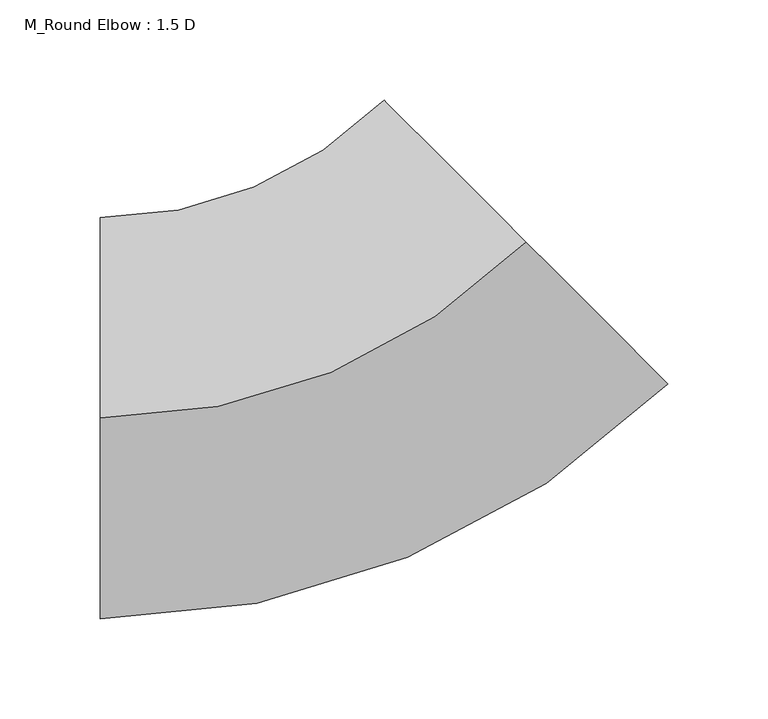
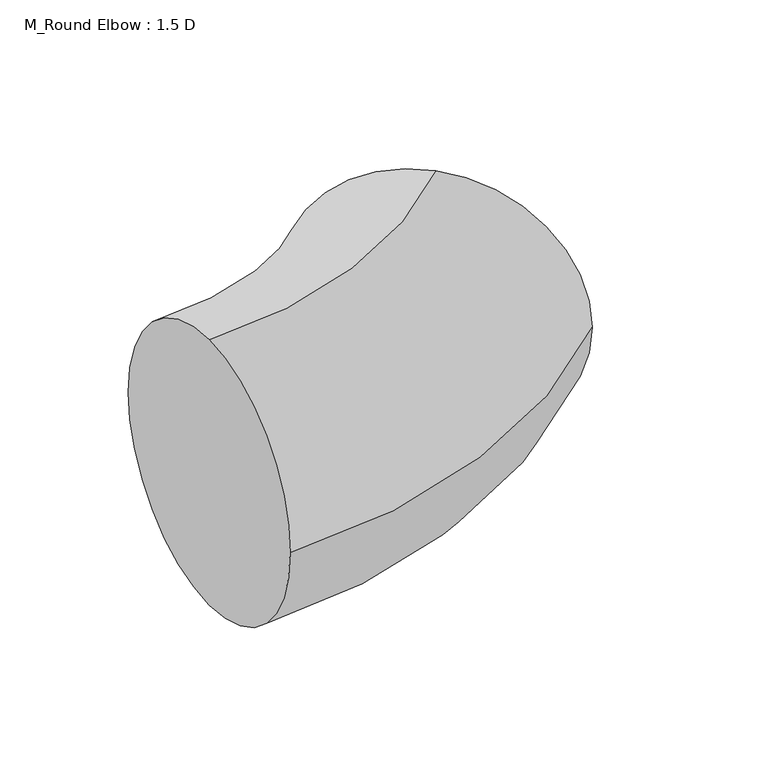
"""IFC4 building model written with IfcOpenShell, lengths in millimetres: duct fitting geometry, M_Round Elbow : 1.5 D."""

from ifc_helpers import new_model, si_unit, point, frame, origin, place, context, project, spatial, circle_curve, ellipse_curve, trimmed, source, transform, mapped, element, save
from ifc_brep_helpers import plane_surface, revolved_surface, advanced_brep


def m_round_elbow_1_5_d_8bea4ac0(model_context):
    return source(origin(), model_context, "Body", "AdvancedBrep", [
        advanced_brep(
        [(-124.2639339, 0.0, 100.0), (-124.2639339, 100.0, 0.0), (-124.2639339, 0.0, -100.0), (-124.2639339, -100.0, 0.0), (87.8679377, 87.867803, 100.0), (158.5785616, 17.1570706, 0.0), (87.8679377, 87.867803, -100.0), (17.1573138, 158.5785353, 0.0)],
        [
            (0, 1, circle_curve(frame((-124.2639339, 0.0, 0.0), z_axis=(-1.0, 0.0, 0.0), x_axis=(0.0, 1.0, 0.0)), 100.0)),
            (1, 2, circle_curve(frame((-124.2639339, 0.0, 0.0), z_axis=(-1.0, 0.0, 0.0), x_axis=(0.0, 1.0, 0.0)), 100.0)),
            (2, 3, circle_curve(frame((-124.2639339, 0.0, 0.0), z_axis=(-1.0, 0.0, 0.0), x_axis=(0.0, 1.0, 0.0)), 100.0)),
            (3, 0, circle_curve(frame((-124.2639339, 0.0, 0.0), z_axis=(-1.0, 0.0, 0.0), x_axis=(0.0, 1.0, 0.0)), 100.0)),
            (4, 5, circle_curve(frame((87.8679377, 87.867803, 0.0), z_axis=(0.7071073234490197, 0.7071062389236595, 0.0), x_axis=(-0.7071062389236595, 0.7071073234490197, 0.0)), 100.0)),
            (5, 6, circle_curve(frame((87.8679377, 87.867803, 0.0), z_axis=(0.7071073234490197, 0.7071062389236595, 0.0), x_axis=(-0.7071062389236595, 0.7071073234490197, 0.0)), 100.0)),
            (6, 7, circle_curve(frame((87.8679377, 87.867803, 0.0), z_axis=(0.7071073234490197, 0.7071062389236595, 0.0), x_axis=(-0.7071062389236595, 0.7071073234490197, 0.0)), 100.0)),
            (7, 4, circle_curve(frame((87.8679377, 87.867803, 0.0), z_axis=(0.7071073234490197, 0.7071062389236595, 0.0), x_axis=(-0.7071062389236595, 0.7071073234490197, 0.0)), 100.0)),
            (7, 1, circle_curve(frame((-124.2639339, 300.0, 0.0), z_axis=(0.0, 0.0, -1.0), x_axis=(0.0, -1.0, 0.0)), 200.0)),
            (0, 4, circle_curve(frame((-124.2639339, 300.0, 100.0), z_axis=(0.0, 0.0, 1.0), x_axis=(0.0, -1.0, 0.0)), 300.0)),
            (6, 2, circle_curve(frame((-124.2639339, 300.0, -100.0), z_axis=(0.0, 0.0, -1.0), x_axis=(0.0, -1.0, 0.0)), 300.0)),
            (5, 3, circle_curve(frame((-124.2639339, 300.0, 0.0), z_axis=(0.0, 0.0, -1.0), x_axis=(0.0, -1.0, 0.0)), 400.0)),
        ],
        [
            plane_surface(frame((-124.2639339, 0.0, 0.0), z_axis=(-1.0, 0.0, 0.0), x_axis=(0.0, 0.0, 1.0))),
            plane_surface(frame((87.8679377, 87.867803, 0.0), z_axis=(0.7071073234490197, 0.7071062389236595, 0.0), x_axis=(0.0, 0.0, 1.0))),
            revolved_surface(trimmed(ellipse_curve(frame((-124.2639339, 0.0, 0.0), z_axis=(-1.0, 0.0, 0.0), x_axis=(0.0, 1.0, 0.0)), 100.0, 100.0), [point((-124.2639339, 0.0, 100.0))], [point((-124.2639339, 100.0, 0.0))], True, "CARTESIAN"), (-124.2639339, 300.0, 0.0), (0.0, 0.0, 1.0)),
            revolved_surface(trimmed(ellipse_curve(frame((-124.2639339, 0.0, 0.0), z_axis=(-1.0, 0.0, 0.0), x_axis=(0.0, 1.0, 0.0)), 100.0, 100.0), [point((-124.2639339, 100.0, 0.0))], [point((-124.2639339, 0.0, -100.0))], True, "CARTESIAN"), (-124.2639339, 300.0, 0.0), (0.0, 0.0, 1.0)),
            revolved_surface(trimmed(ellipse_curve(frame((-124.2639339, 0.0, 0.0), z_axis=(-1.0, 0.0, 0.0), x_axis=(0.0, 1.0, 0.0)), 100.0, 100.0), [point((-124.2639339, 0.0, -100.0))], [point((-124.2639339, -100.0, 0.0))], True, "CARTESIAN"), (-124.2639339, 300.0, 0.0), (0.0, 0.0, 1.0)),
            revolved_surface(trimmed(ellipse_curve(frame((-124.2639339, 0.0, 0.0), z_axis=(-1.0, 0.0, 0.0), x_axis=(0.0, 1.0, 0.0)), 100.0, 100.0), [point((-124.2639339, -100.0, 0.0))], [point((-124.2639339, 0.0, 100.0))], True, "CARTESIAN"), (-124.2639339, 300.0, 0.0), (0.0, 0.0, 1.0)),
        ],
        [
            (0, [[1, 2, 3, 4]]),
            (1, [[5, 6, 7, 8]]),
            (2, [[9, -1, 10, -8]]),
            (3, [[11, -2, -9, -7]]),
            (4, [[12, -3, -11, -6]]),
            (5, [[-10, -4, -12, -5]]),
        ],
    ),
        advanced_brep(
        [(-124.2639339, 0.0, 100.0), (-124.2639339, 100.0, 0.0), (-124.2639339, 0.0, -100.0), (-124.2639339, -100.0, 0.0), (87.8679377, 87.867803, 100.0), (158.5785616, 17.1570706, 0.0), (87.8679377, 87.867803, -100.0), (17.1573138, 158.5785353, 0.0)],
        [
            (0, 1, circle_curve(frame((-124.2639339, 0.0, 0.0), z_axis=(-1.0, 0.0, 0.0), x_axis=(0.0, 1.0, 0.0)), 100.0)),
            (1, 2, circle_curve(frame((-124.2639339, 0.0, 0.0), z_axis=(-1.0, 0.0, 0.0), x_axis=(0.0, 1.0, 0.0)), 100.0)),
            (2, 3, circle_curve(frame((-124.2639339, 0.0, 0.0), z_axis=(-1.0, 0.0, 0.0), x_axis=(0.0, 1.0, 0.0)), 100.0)),
            (3, 0, circle_curve(frame((-124.2639339, 0.0, 0.0), z_axis=(-1.0, 0.0, 0.0), x_axis=(0.0, 1.0, 0.0)), 100.0)),
            (4, 5, circle_curve(frame((87.8679377, 87.867803, 0.0), z_axis=(0.7071073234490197, 0.7071062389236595, 0.0), x_axis=(-0.7071062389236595, 0.7071073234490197, 0.0)), 100.0)),
            (5, 6, circle_curve(frame((87.8679377, 87.867803, 0.0), z_axis=(0.7071073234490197, 0.7071062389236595, 0.0), x_axis=(-0.7071062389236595, 0.7071073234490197, 0.0)), 100.0)),
            (6, 7, circle_curve(frame((87.8679377, 87.867803, 0.0), z_axis=(0.7071073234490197, 0.7071062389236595, 0.0), x_axis=(-0.7071062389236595, 0.7071073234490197, 0.0)), 100.0)),
            (7, 4, circle_curve(frame((87.8679377, 87.867803, 0.0), z_axis=(0.7071073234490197, 0.7071062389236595, 0.0), x_axis=(-0.7071062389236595, 0.7071073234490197, 0.0)), 100.0)),
            (7, 1, circle_curve(frame((-124.2639339, 300.0, 0.0), z_axis=(0.0, 0.0, -1.0), x_axis=(0.0, -1.0, 0.0)), 200.0)),
            (0, 4, circle_curve(frame((-124.2639339, 300.0, 100.0), z_axis=(0.0, 0.0, 1.0), x_axis=(0.0, -1.0, 0.0)), 300.0)),
            (6, 2, circle_curve(frame((-124.2639339, 300.0, -100.0), z_axis=(0.0, 0.0, -1.0), x_axis=(0.0, -1.0, 0.0)), 300.0)),
            (5, 3, circle_curve(frame((-124.2639339, 300.0, 0.0), z_axis=(0.0, 0.0, -1.0), x_axis=(0.0, -1.0, 0.0)), 400.0)),
        ],
        [
            plane_surface(frame((-124.2639339, 0.0, 0.0), z_axis=(-1.0, 0.0, 0.0), x_axis=(0.0, 0.0, 1.0))),
            plane_surface(frame((87.8679377, 87.867803, 0.0), z_axis=(0.7071073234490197, 0.7071062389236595, 0.0), x_axis=(0.0, 0.0, 1.0))),
            revolved_surface(trimmed(ellipse_curve(frame((-124.2639339, 0.0, 0.0), z_axis=(-1.0, 0.0, 0.0), x_axis=(0.0, 1.0, 0.0)), 100.0, 100.0), [point((-124.2639339, 0.0, 100.0))], [point((-124.2639339, 100.0, 0.0))], True, "CARTESIAN"), (-124.2639339, 300.0, 0.0), (0.0, 0.0, 1.0)),
            revolved_surface(trimmed(ellipse_curve(frame((-124.2639339, 0.0, 0.0), z_axis=(-1.0, 0.0, 0.0), x_axis=(0.0, 1.0, 0.0)), 100.0, 100.0), [point((-124.2639339, 100.0, 0.0))], [point((-124.2639339, 0.0, -100.0))], True, "CARTESIAN"), (-124.2639339, 300.0, 0.0), (0.0, 0.0, 1.0)),
            revolved_surface(trimmed(ellipse_curve(frame((-124.2639339, 0.0, 0.0), z_axis=(-1.0, 0.0, 0.0), x_axis=(0.0, 1.0, 0.0)), 100.0, 100.0), [point((-124.2639339, 0.0, -100.0))], [point((-124.2639339, -100.0, 0.0))], True, "CARTESIAN"), (-124.2639339, 300.0, 0.0), (0.0, 0.0, 1.0)),
            revolved_surface(trimmed(ellipse_curve(frame((-124.2639339, 0.0, 0.0), z_axis=(-1.0, 0.0, 0.0), x_axis=(0.0, 1.0, 0.0)), 100.0, 100.0), [point((-124.2639339, -100.0, 0.0))], [point((-124.2639339, 0.0, 100.0))], True, "CARTESIAN"), (-124.2639339, 300.0, 0.0), (0.0, 0.0, 1.0)),
        ],
        [
            (0, [[1, 2, 3, 4]]),
            (1, [[5, 6, 7, 8]]),
            (2, [[9, -1, 10, -8]]),
            (3, [[11, -2, -9, -7]]),
            (4, [[12, -3, -11, -6]]),
            (5, [[-10, -4, -12, -5]]),
        ],
    ),
        advanced_brep(
        [(-124.2639339, 0.0, 100.0), (-124.2639339, 100.0, 0.0), (-124.2639339, 0.0, -100.0), (-124.2639339, -100.0, 0.0), (87.8679377, 87.867803, 100.0), (158.5785616, 17.1570706, 0.0), (87.8679377, 87.867803, -100.0), (17.1573138, 158.5785353, 0.0)],
        [
            (0, 1, circle_curve(frame((-124.2639339, 0.0, 0.0), z_axis=(-1.0, 0.0, 0.0), x_axis=(0.0, 1.0, 0.0)), 100.0)),
            (1, 2, circle_curve(frame((-124.2639339, 0.0, 0.0), z_axis=(-1.0, 0.0, 0.0), x_axis=(0.0, 1.0, 0.0)), 100.0)),
            (2, 3, circle_curve(frame((-124.2639339, 0.0, 0.0), z_axis=(-1.0, 0.0, 0.0), x_axis=(0.0, 1.0, 0.0)), 100.0)),
            (3, 0, circle_curve(frame((-124.2639339, 0.0, 0.0), z_axis=(-1.0, 0.0, 0.0), x_axis=(0.0, 1.0, 0.0)), 100.0)),
            (4, 5, circle_curve(frame((87.8679377, 87.867803, 0.0), z_axis=(0.7071073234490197, 0.7071062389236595, 0.0), x_axis=(-0.7071062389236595, 0.7071073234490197, 0.0)), 100.0)),
            (5, 6, circle_curve(frame((87.8679377, 87.867803, 0.0), z_axis=(0.7071073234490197, 0.7071062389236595, 0.0), x_axis=(-0.7071062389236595, 0.7071073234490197, 0.0)), 100.0)),
            (6, 7, circle_curve(frame((87.8679377, 87.867803, 0.0), z_axis=(0.7071073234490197, 0.7071062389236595, 0.0), x_axis=(-0.7071062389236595, 0.7071073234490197, 0.0)), 100.0)),
            (7, 4, circle_curve(frame((87.8679377, 87.867803, 0.0), z_axis=(0.7071073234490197, 0.7071062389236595, 0.0), x_axis=(-0.7071062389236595, 0.7071073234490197, 0.0)), 100.0)),
            (7, 1, circle_curve(frame((-124.2639339, 300.0, 0.0), z_axis=(0.0, 0.0, -1.0), x_axis=(0.0, -1.0, 0.0)), 200.0)),
            (0, 4, circle_curve(frame((-124.2639339, 300.0, 100.0), z_axis=(0.0, 0.0, 1.0), x_axis=(0.0, -1.0, 0.0)), 300.0)),
            (6, 2, circle_curve(frame((-124.2639339, 300.0, -100.0), z_axis=(0.0, 0.0, -1.0), x_axis=(0.0, -1.0, 0.0)), 300.0)),
            (5, 3, circle_curve(frame((-124.2639339, 300.0, 0.0), z_axis=(0.0, 0.0, -1.0), x_axis=(0.0, -1.0, 0.0)), 400.0)),
        ],
        [
            plane_surface(frame((-124.2639339, 0.0, 0.0), z_axis=(-1.0, 0.0, 0.0), x_axis=(0.0, 0.0, 1.0))),
            plane_surface(frame((87.8679377, 87.867803, 0.0), z_axis=(0.7071073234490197, 0.7071062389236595, 0.0), x_axis=(0.0, 0.0, 1.0))),
            revolved_surface(trimmed(ellipse_curve(frame((-124.2639339, 0.0, 0.0), z_axis=(-1.0, 0.0, 0.0), x_axis=(0.0, 1.0, 0.0)), 100.0, 100.0), [point((-124.2639339, 0.0, 100.0))], [point((-124.2639339, 100.0, 0.0))], True, "CARTESIAN"), (-124.2639339, 300.0, 0.0), (0.0, 0.0, 1.0)),
            revolved_surface(trimmed(ellipse_curve(frame((-124.2639339, 0.0, 0.0), z_axis=(-1.0, 0.0, 0.0), x_axis=(0.0, 1.0, 0.0)), 100.0, 100.0), [point((-124.2639339, 100.0, 0.0))], [point((-124.2639339, 0.0, -100.0))], True, "CARTESIAN"), (-124.2639339, 300.0, 0.0), (0.0, 0.0, 1.0)),
            revolved_surface(trimmed(ellipse_curve(frame((-124.2639339, 0.0, 0.0), z_axis=(-1.0, 0.0, 0.0), x_axis=(0.0, 1.0, 0.0)), 100.0, 100.0), [point((-124.2639339, 0.0, -100.0))], [point((-124.2639339, -100.0, 0.0))], True, "CARTESIAN"), (-124.2639339, 300.0, 0.0), (0.0, 0.0, 1.0)),
            revolved_surface(trimmed(ellipse_curve(frame((-124.2639339, 0.0, 0.0), z_axis=(-1.0, 0.0, 0.0), x_axis=(0.0, 1.0, 0.0)), 100.0, 100.0), [point((-124.2639339, -100.0, 0.0))], [point((-124.2639339, 0.0, 100.0))], True, "CARTESIAN"), (-124.2639339, 300.0, 0.0), (0.0, 0.0, 1.0)),
        ],
        [
            (0, [[1, 2, 3, 4]]),
            (1, [[5, 6, 7, 8]]),
            (2, [[9, -1, 10, -8]]),
            (3, [[11, -2, -9, -7]]),
            (4, [[12, -3, -11, -6]]),
            (5, [[-10, -4, -12, -5]]),
        ],
    ),
    ])


if __name__ == "__main__":
    model = new_model("IFC4")
    model_context = context("Model", 3, world=origin())
    ifc_project = project(units=[si_unit("LENGTHUNIT", "METRE", prefix="MILLI")], contexts=[model_context])
    site = spatial("IfcSite", under=ifc_project)
    building = spatial("IfcBuilding", under=site)
    placement = place(None, origin())
    m_round_elbow_1_5_d_shape = m_round_elbow_1_5_d_8bea4ac0(model_context)
    element("IfcDuctFitting", 1, ObjectType="M_Round Elbow : 1.5 D", at=placement, inside=building, context=model_context, shape_type="MappedRepresentation", body=[
        mapped(m_round_elbow_1_5_d_shape, transform((0.0, 0.0, 0.0), x_axis=(1.0, 0.0, 0.0), y_axis=(0.0, 1.0, 0.0), z_axis=(0.0, 0.0, 1.0))),
    ])
    save(model, "model.ifc")
